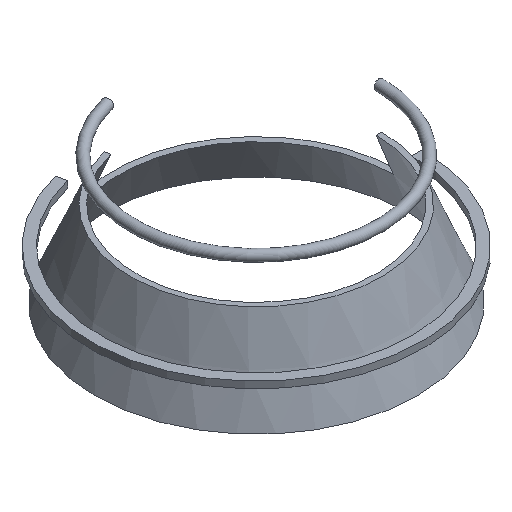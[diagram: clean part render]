
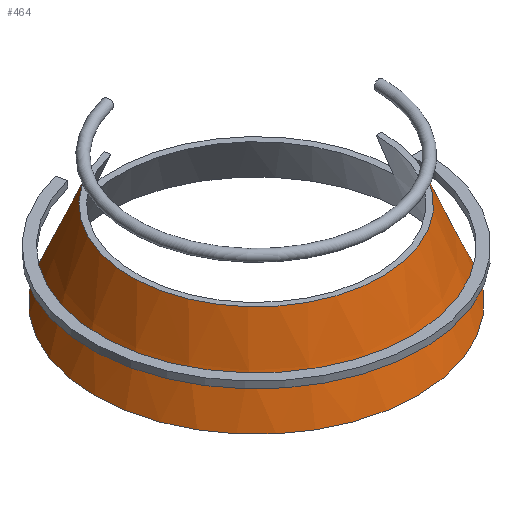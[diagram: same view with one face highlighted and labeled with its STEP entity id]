
A CAD part, isometric view. The second image highlights one B-rep face of the part: STEP entity #464.
In plain terms, the highlighted conical face has half-angle 22.834 degrees and reference radius 72 mm.
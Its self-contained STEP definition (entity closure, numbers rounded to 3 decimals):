
#464 = ADVANCED_FACE('',(#465),#479,.T.);
#465 = FACE_BOUND('',#466,.T.);
#466 = EDGE_LOOP('',(#467,#502,#531,#557,#584,#607,#634));
#467 = ORIENTED_EDGE('',*,*,#468,.T.);
#468 = EDGE_CURVE('',#469,#471,#473,.T.);
#469 = VERTEX_POINT('',#470);
#470 = CARTESIAN_POINT('',(64.,0.,0.));
#471 = VERTEX_POINT('',#472);
#472 = CARTESIAN_POINT('',(56.,0.,19.));
#473 = SURFACE_CURVE('',#474,(#478,#490),.PCURVE_S1.);
#474 = LINE('',#475,#476);
#475 = CARTESIAN_POINT('',(72.,0.,-19.));
#476 = VECTOR('',#477,1.);
#477 = DIRECTION('',(-0.388,0.,0.922)
  );
#478 = PCURVE('',#479,#484);
#479 = CONICAL_SURFACE('',#480,72.,0.399);
#480 = AXIS2_PLACEMENT_3D('',#481,#482,#483);
#481 = CARTESIAN_POINT('',(0.,0.,-19.));
#482 = DIRECTION('',(-0.,-0.,-1.));
#483 = DIRECTION('',(1.,0.,-0.));
#484 = DEFINITIONAL_REPRESENTATION('',(#485),#489);
#485 = LINE('',#486,#487);
#486 = CARTESIAN_POINT('',(-6.283,0.));
#487 = VECTOR('',#488,1.);
#488 = DIRECTION('',(-0.,-1.));
#489 = ( GEOMETRIC_REPRESENTATION_CONTEXT(2) 
PARAMETRIC_REPRESENTATION_CONTEXT() REPRESENTATION_CONTEXT('2D SPACE',''
  ) );
#490 = PCURVE('',#491,#496);
#491 = PLANE('',#492);
#492 = AXIS2_PLACEMENT_3D('',#493,#494,#495);
#493 = CARTESIAN_POINT('',(0.,0.,0.));
#494 = DIRECTION('',(0.,1.,0.));
#495 = DIRECTION('',(1.,0.,0.));
#496 = DEFINITIONAL_REPRESENTATION('',(#497),#501);
#497 = LINE('',#498,#499);
#498 = CARTESIAN_POINT('',(72.,19.));
#499 = VECTOR('',#500,1.);
#500 = DIRECTION('',(-0.388,-0.922));
#501 = ( GEOMETRIC_REPRESENTATION_CONTEXT(2) 
PARAMETRIC_REPRESENTATION_CONTEXT() REPRESENTATION_CONTEXT('2D SPACE',''
  ) );
#502 = ORIENTED_EDGE('',*,*,#503,.F.);
#503 = EDGE_CURVE('',#504,#471,#506,.T.);
#504 = VERTEX_POINT('',#505);
#505 = CARTESIAN_POINT('',(-13.582,54.328,19.));
#506 = SURFACE_CURVE('',#507,(#512,#519),.PCURVE_S1.);
#507 = CIRCLE('',#508,56.);
#508 = AXIS2_PLACEMENT_3D('',#509,#510,#511);
#509 = CARTESIAN_POINT('',(0.,0.,19.));
#510 = DIRECTION('',(0.,0.,1.));
#511 = DIRECTION('',(1.,0.,-0.));
#512 = PCURVE('',#479,#513);
#513 = DEFINITIONAL_REPRESENTATION('',(#514),#518);
#514 = LINE('',#515,#516);
#515 = CARTESIAN_POINT('',(-0.,-38.));
#516 = VECTOR('',#517,1.);
#517 = DIRECTION('',(-1.,-0.));
#518 = ( GEOMETRIC_REPRESENTATION_CONTEXT(2) 
PARAMETRIC_REPRESENTATION_CONTEXT() REPRESENTATION_CONTEXT('2D SPACE',''
  ) );
#519 = PCURVE('',#520,#525);
#520 = PLANE('',#521);
#521 = AXIS2_PLACEMENT_3D('',#522,#523,#524);
#522 = CARTESIAN_POINT('',(0.,0.,19.));
#523 = DIRECTION('',(0.,0.,1.));
#524 = DIRECTION('',(1.,0.,-0.));
#525 = DEFINITIONAL_REPRESENTATION('',(#526),#530);
#526 = CIRCLE('',#527,56.);
#527 = AXIS2_PLACEMENT_2D('',#528,#529);
#528 = CARTESIAN_POINT('',(0.,0.));
#529 = DIRECTION('',(1.,0.));
#530 = ( GEOMETRIC_REPRESENTATION_CONTEXT(2) 
PARAMETRIC_REPRESENTATION_CONTEXT() REPRESENTATION_CONTEXT('2D SPACE',''
  ) );
#531 = ORIENTED_EDGE('',*,*,#532,.T.);
#532 = EDGE_CURVE('',#504,#533,#535,.T.);
#533 = VERTEX_POINT('',#534);
#534 = CARTESIAN_POINT('',(-15.522,62.089,0.));
#535 = SURFACE_CURVE('',#536,(#540,#546),.PCURVE_S1.);
#536 = LINE('',#537,#538);
#537 = CARTESIAN_POINT('',(0.,0.,152.));
#538 = VECTOR('',#539,1.);
#539 = DIRECTION('',(-0.094,0.376,-0.922)
  );
#540 = PCURVE('',#479,#541);
#541 = DEFINITIONAL_REPRESENTATION('',(#542),#545);
#542 = B_SPLINE_CURVE_WITH_KNOTS('',1,(#543,#544),.UNSPECIFIED.,.F.,.F.,
  (2,2),(144.309,170.349),.PIECEWISE_BEZIER_KNOTS.);
#543 = CARTESIAN_POINT('',(-1.816,-38.));
#544 = CARTESIAN_POINT('',(-1.816,-14.));
#545 = ( GEOMETRIC_REPRESENTATION_CONTEXT(2) 
PARAMETRIC_REPRESENTATION_CONTEXT() REPRESENTATION_CONTEXT('2D SPACE',''
  ) );
#546 = PCURVE('',#547,#552);
#547 = PLANE('',#548);
#548 = AXIS2_PLACEMENT_3D('',#549,#550,#551);
#549 = CARTESIAN_POINT('',(-30.,120.,0.));
#550 = DIRECTION('',(0.97,0.243,-0.));
#551 = DIRECTION('',(0.243,-0.97,0.));
#552 = DEFINITIONAL_REPRESENTATION('',(#553),#556);
#553 = B_SPLINE_CURVE_WITH_KNOTS('',1,(#554,#555),.UNSPECIFIED.,.F.,.F.,
  (2,2),(144.309,170.349),.PIECEWISE_BEZIER_KNOTS.);
#554 = CARTESIAN_POINT('',(67.693,-19.));
#555 = CARTESIAN_POINT('',(57.588,5.));
#556 = ( GEOMETRIC_REPRESENTATION_CONTEXT(2) 
PARAMETRIC_REPRESENTATION_CONTEXT() REPRESENTATION_CONTEXT('2D SPACE',''
  ) );
#557 = ORIENTED_EDGE('',*,*,#558,.F.);
#558 = EDGE_CURVE('',#469,#533,#559,.T.);
#559 = SURFACE_CURVE('',#560,(#565,#572),.PCURVE_S1.);
#560 = CIRCLE('',#561,64.);
#561 = AXIS2_PLACEMENT_3D('',#562,#563,#564);
#562 = CARTESIAN_POINT('',(0.,0.,0.));
#563 = DIRECTION('',(0.,0.,1.));
#564 = DIRECTION('',(1.,0.,-0.));
#565 = PCURVE('',#479,#566);
#566 = DEFINITIONAL_REPRESENTATION('',(#567),#571);
#567 = LINE('',#568,#569);
#568 = CARTESIAN_POINT('',(-0.,-19.));
#569 = VECTOR('',#570,1.);
#570 = DIRECTION('',(-1.,-0.));
#571 = ( GEOMETRIC_REPRESENTATION_CONTEXT(2) 
PARAMETRIC_REPRESENTATION_CONTEXT() REPRESENTATION_CONTEXT('2D SPACE',''
  ) );
#572 = PCURVE('',#573,#578);
#573 = PLANE('',#574);
#574 = AXIS2_PLACEMENT_3D('',#575,#576,#577);
#575 = CARTESIAN_POINT('',(51.577,63.504,0.));
#576 = DIRECTION('',(0.,0.,1.));
#577 = DIRECTION('',(1.,0.,-0.));
#578 = DEFINITIONAL_REPRESENTATION('',(#579),#583);
#579 = CIRCLE('',#580,64.);
#580 = AXIS2_PLACEMENT_2D('',#581,#582);
#581 = CARTESIAN_POINT('',(-51.577,-63.504));
#582 = DIRECTION('',(1.,0.));
#583 = ( GEOMETRIC_REPRESENTATION_CONTEXT(2) 
PARAMETRIC_REPRESENTATION_CONTEXT() REPRESENTATION_CONTEXT('2D SPACE',''
  ) );
#584 = ORIENTED_EDGE('',*,*,#585,.F.);
#585 = EDGE_CURVE('',#586,#469,#588,.T.);
#586 = VERTEX_POINT('',#587);
#587 = CARTESIAN_POINT('',(72.,0.,-19.));
#588 = SEAM_CURVE('',#589,(#593,#600),.PCURVE_S1.);
#589 = LINE('',#590,#591);
#590 = CARTESIAN_POINT('',(72.,0.,-19.));
#591 = VECTOR('',#592,1.);
#592 = DIRECTION('',(-0.388,0.,0.922)
  );
#593 = PCURVE('',#479,#594);
#594 = DEFINITIONAL_REPRESENTATION('',(#595),#599);
#595 = LINE('',#596,#597);
#596 = CARTESIAN_POINT('',(-6.283,0.));
#597 = VECTOR('',#598,1.);
#598 = DIRECTION('',(-0.,-1.));
#599 = ( GEOMETRIC_REPRESENTATION_CONTEXT(2) 
PARAMETRIC_REPRESENTATION_CONTEXT() REPRESENTATION_CONTEXT('2D SPACE',''
  ) );
#600 = PCURVE('',#479,#601);
#601 = DEFINITIONAL_REPRESENTATION('',(#602),#606);
#602 = LINE('',#603,#604);
#603 = CARTESIAN_POINT('',(0.,-0.));
#604 = VECTOR('',#605,1.);
#605 = DIRECTION('',(-0.,-1.));
#606 = ( GEOMETRIC_REPRESENTATION_CONTEXT(2) 
PARAMETRIC_REPRESENTATION_CONTEXT() REPRESENTATION_CONTEXT('2D SPACE',''
  ) );
#607 = ORIENTED_EDGE('',*,*,#608,.T.);
#608 = EDGE_CURVE('',#586,#586,#609,.T.);
#609 = SURFACE_CURVE('',#610,(#615,#622),.PCURVE_S1.);
#610 = CIRCLE('',#611,72.);
#611 = AXIS2_PLACEMENT_3D('',#612,#613,#614);
#612 = CARTESIAN_POINT('',(0.,0.,-19.));
#613 = DIRECTION('',(0.,0.,1.));
#614 = DIRECTION('',(1.,0.,-0.));
#615 = PCURVE('',#479,#616);
#616 = DEFINITIONAL_REPRESENTATION('',(#617),#621);
#617 = LINE('',#618,#619);
#618 = CARTESIAN_POINT('',(-0.,-0.));
#619 = VECTOR('',#620,1.);
#620 = DIRECTION('',(-1.,-0.));
#621 = ( GEOMETRIC_REPRESENTATION_CONTEXT(2) 
PARAMETRIC_REPRESENTATION_CONTEXT() REPRESENTATION_CONTEXT('2D SPACE',''
  ) );
#622 = PCURVE('',#623,#628);
#623 = PLANE('',#624);
#624 = AXIS2_PLACEMENT_3D('',#625,#626,#627);
#625 = CARTESIAN_POINT('',(0.,0.,-19.));
#626 = DIRECTION('',(0.,0.,1.));
#627 = DIRECTION('',(1.,0.,-0.));
#628 = DEFINITIONAL_REPRESENTATION('',(#629),#633);
#629 = CIRCLE('',#630,72.);
#630 = AXIS2_PLACEMENT_2D('',#631,#632);
#631 = CARTESIAN_POINT('',(0.,0.));
#632 = DIRECTION('',(1.,0.));
#633 = ( GEOMETRIC_REPRESENTATION_CONTEXT(2) 
PARAMETRIC_REPRESENTATION_CONTEXT() REPRESENTATION_CONTEXT('2D SPACE',''
  ) );
#634 = ORIENTED_EDGE('',*,*,#585,.T.);
